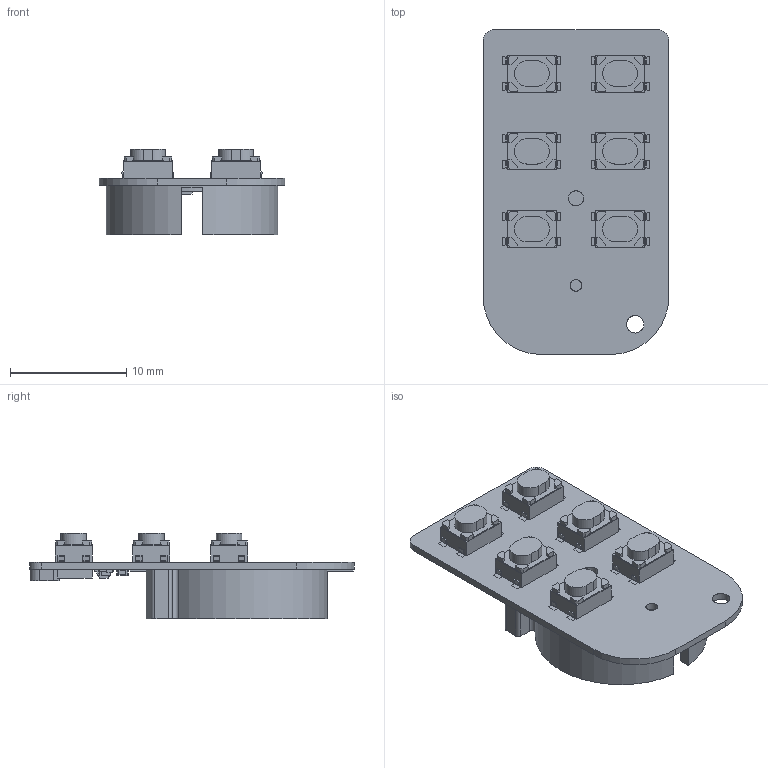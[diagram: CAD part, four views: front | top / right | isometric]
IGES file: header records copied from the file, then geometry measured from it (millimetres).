
Global section: file name: Filename.iges; native system: Open CASCADE 7.4; preprocessor: Open CASCADE IGES processor 7.4; date: 20200630.152731; units: millimetre
Bounding box: 16 x 28 x 7.35 mm (x, y, z)
Surface area: 4669.6 mm2 (no closed solid volume)
Topology: 0 solids, 0 shells, 3368 faces, 16969 edges, 19569 vertices
Faces by surface type: plane 2844, revolution 322, bspline 202
